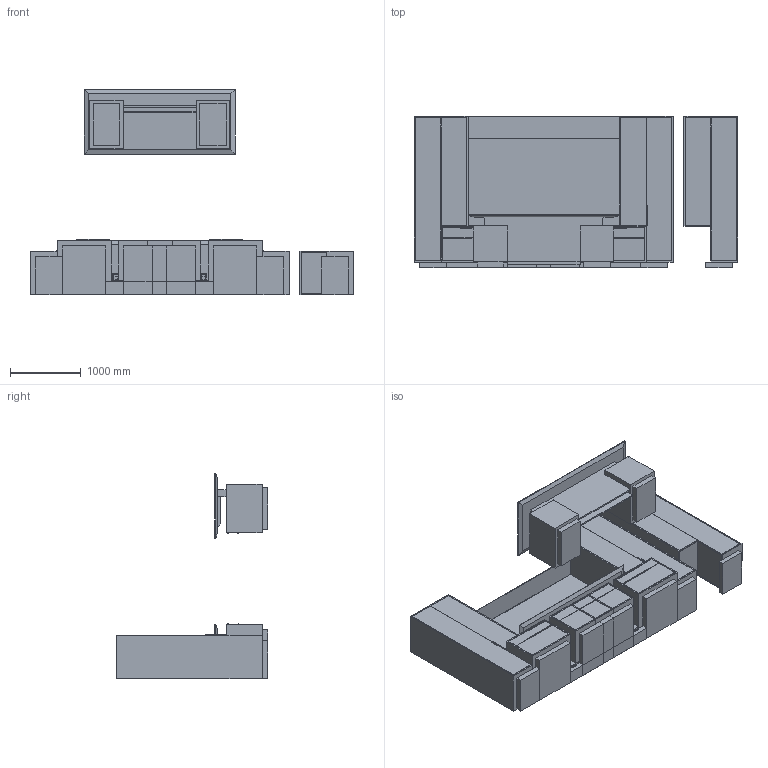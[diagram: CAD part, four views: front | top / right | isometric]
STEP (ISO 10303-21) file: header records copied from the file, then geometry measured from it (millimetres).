
FILE_DESCRIPTION(/* description */ ('','CAx-IF Rec.Pracs.---Representation and Presentation of Product Manufacturing Information (PMI)---4.0---2014-10-13'),/* implementation_level */ '2;1');
FILE_NAME(/* name */ 'PRIVATE OFFICE_ELEVATE 2.stp',/* time_stamp */ '2024-12-08T11:03:25-05:00',/* author */ ('mbowman'),/* organization */ (''),/* preprocessor_version */ 'ST-DEVELOPER v19.2',/* originating_system */ 'Autodesk Inventor 2023',/* authorisation */ '');
FILE_SCHEMA (('AP242_MANAGED_MODEL_BASED_3D_ENGINEERING_MIM_LF { 1 0 10303 442 1 1 4 }'));
Products named in the file (42): PRIVATE OFFICE_ELEVATE 2; CCN^APOGEE_L2 36x84 FIXED TOP DESK-ASSEMBLY; CCN^APOGEE_L2 36x84 FIXED TOP DESK-LT PED PLINTH; CCN^APOGEE_L2 36x84 FIXED TOP DESK-LT PED BTM; CCN^APOGEE_L2 36x84 FIXED TOP DESK-LT PED RT SIDE; CCN^APOGEE_L2 36x84 FIXED TOP DESK-LT PED LT SIDE; CCN^APOGEE_L2 36x84 FIXED TOP DESK-LT PED TOP; CCN^APOGEE_L2 36x84 FIXED TOP DESK-LT PED BACK; CCN^APOGEE_L2 36x84 FIXED TOP DESK-LT PED FILE FRT; CCN^APOGEE_L2 36x84 FIXED TOP DESK-LT PED BOX FRT; CCN^APOGEE_L2 36x84 FIXED TOP DESK-RT PED PLINTH; CCN^APOGEE_L2 36x84 FIXED TOP DESK-RT PED BTM; CCN^APOGEE_L2 36x84 FIXED TOP DESK-RT PED LT SIDE; CCN^APOGEE_L2 36x84 FIXED TOP DESK-RT PED RT SIDE; CCN^APOGEE_L2 36x84 FIXED TOP DESK-RT PED TOP; CCN^APOGEE_L2 36x84 FIXED TOP DESK-RT PED BACK; CCN^APOGEE_L2 36x84 FIXED TOP DESK-RT PED FILE FRT; CCN^APOGEE_L2 36x84 FIXED TOP DESK-RT PED BOX FRT; CCN^APOGEE_L2 36x84 FIXED TOP DESK-RISER LT END; CCN^APOGEE_L2 36x84 FIXED TOP DESK-RISER RT END; CCN^APOGEE_L2 36x84 FIXED TOP DESK-RISER RAIL SEATED SIDE; CCN^APOGEE_L2 36x84 FIXED TOP DESK-MODESTY; CCN^APOGEE_L2 36x84 FIXED TOP DESK-RISER TOP; CCN^APOGEE_L2 36x84 FIXED TOP DESK-RISER BOTTOM; CCN^APOGEE_L2 36x84 FIXED TOP DESK-WORKSURFACE; TABLE CANTILEVER BRKT H-283-CB18B; CCN^APOGEE_LAYOUT 2-A; CCN^APOGEE_L2 LTR LAT LEFT-PARTS SOLID; CCN^APOGEE_L2 LTR LAT RIGHT-PARTS SOLID; CCN^APOGEE_L2 CENTER WW-54 PARTS SOLID; CCN^APOGEE_L2 WORKSURFACE-29.5x82 SOLID; CCN^APOGEE_L2 WALL HUNG-108 WOOD CAP PARTS SOLID; CCN^APOGEE_L2 WALL HUNG-48 CTR TACK PARTS SOLID; dl5nc_without_bracket_STEP; dl5nc_without_bracket_STEP_1; DL5NC_OP; STANDART_MOTORHUS1_DL5; JW PULL-18_25^STANDARD; CCN^APOGEE_L2 WALL HUNG-108 METAL SHELF; CCN^APOGEE_L2 2 BAY WARDROBE RIGHT-PARTS SOLID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
Assembly tree (52 placements, depth 4):
  PRIVATE OFFICE_ELEVATE 2
    CCN^APOGEE_L2 36x84 FIXED TOP DESK-ASSEMBLY
      CCN^APOGEE_L2 36x84 FIXED TOP DESK-LT PED PLINTH
      CCN^APOGEE_L2 36x84 FIXED TOP DESK-LT PED BTM
      CCN^APOGEE_L2 36x84 FIXED TOP DESK-LT PED RT SIDE
      CCN^APOGEE_L2 36x84 FIXED TOP DESK-LT PED LT SIDE
      CCN^APOGEE_L2 36x84 FIXED TOP DESK-LT PED TOP
      CCN^APOGEE_L2 36x84 FIXED TOP DESK-LT PED BACK
      CCN^APOGEE_L2 36x84 FIXED TOP DESK-LT PED FILE FRT
      CCN^APOGEE_L2 36x84 FIXED TOP DESK-LT PED BOX FRT
      CCN^APOGEE_L2 36x84 FIXED TOP DESK-RT PED PLINTH
      CCN^APOGEE_L2 36x84 FIXED TOP DESK-RT PED BTM
      CCN^APOGEE_L2 36x84 FIXED TOP DESK-RT PED LT SIDE
      CCN^APOGEE_L2 36x84 FIXED TOP DESK-RT PED RT SIDE
      CCN^APOGEE_L2 36x84 FIXED TOP DESK-RT PED TOP
      CCN^APOGEE_L2 36x84 FIXED TOP DESK-RT PED BACK
      CCN^APOGEE_L2 36x84 FIXED TOP DESK-RT PED FILE FRT
      CCN^APOGEE_L2 36x84 FIXED TOP DESK-RT PED BOX FRT
      CCN^APOGEE_L2 36x84 FIXED TOP DESK-RISER LT END
      CCN^APOGEE_L2 36x84 FIXED TOP DESK-RISER RT END
      CCN^APOGEE_L2 36x84 FIXED TOP DESK-RISER RAIL SEATED SIDE
      CCN^APOGEE_L2 36x84 FIXED TOP DESK-MODESTY
      CCN^APOGEE_L2 36x84 FIXED TOP DESK-RISER TOP
      CCN^APOGEE_L2 36x84 FIXED TOP DESK-RISER BOTTOM
      CCN^APOGEE_L2 36x84 FIXED TOP DESK-WORKSURFACE
      JW PULL-11_125^STANDARD  x4
      TABLE CANTILEVER BRKT H-283-CB18B  x2
    CCN^APOGEE_LAYOUT 2-A
      CCN^APOGEE_L2 LTR LAT LEFT-PARTS SOLID
      CCN^APOGEE_L2 LTR LAT RIGHT-PARTS SOLID
      CCN^APOGEE_L2 CENTER WW-54 PARTS SOLID
      CCN^APOGEE_L2 WORKSURFACE-29.5x82 SOLID
      CCN^APOGEE_L2 WALL HUNG-108 WOOD CAP PARTS SOLID
      CCN^APOGEE_L2 WALL HUNG-48 CTR TACK PARTS SOLID
      dl5nc_without_bracket_STEP
        DL5NC_OP
        STANDART_MOTORHUS1_DL5
      dl5nc_without_bracket_STEP_1
        DL5NC_OP
        STANDART_MOTORHUS1_DL5
      JW PULL-18_25^STANDARD  x4
      CCN^APOGEE_L2 WALL HUNG-108 METAL SHELF
      CCN^APOGEE_L2 2 BAY WARDROBE RIGHT-PARTS SOLID
      CCN^APOGEE_L2 2 BAY WARDROBE LEFT-PARTS SOLID
      JW PULL-11_125^STANDARD  x2
Bounding box: 4572 x 2133.6 x 2895.6 mm (x, y, z)
Volume: 1110748479.9 mm3; surface area: 103691711.6 mm2
Topology: 117 solids, 157 shells, 3305 faces, 8349 edges, 5338 vertices
Faces by surface type: plane 2181, cylinder 886, torus 92, bspline 76, cone 46, sphere 24
Full cylindrical faces by diameter (mm): 4.6 x4, 5 x20, 5.3 x12, 5.5 x4, 6.35 x10, 7.938 x8, 8 x4, 8.202 x40
Entity records: 69492 total; most frequent: CARTESIAN_POINT 16218, DIRECTION 10479, ORIENTED_EDGE 9534, EDGE_CURVE 4767, LINE 3519, VECTOR 3519, AXIS2_PLACEMENT_3D 3480, VERTEX_POINT 3064
